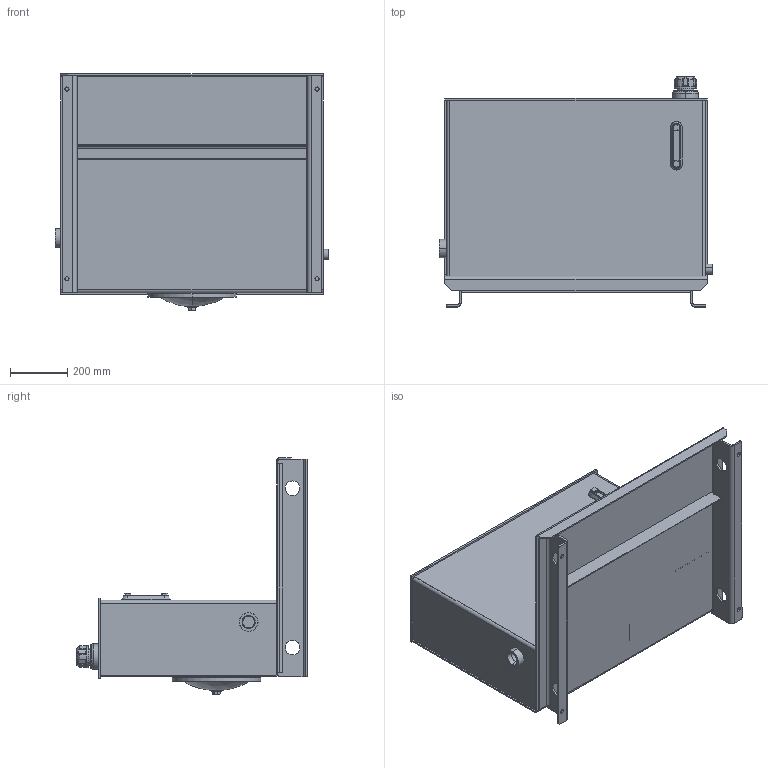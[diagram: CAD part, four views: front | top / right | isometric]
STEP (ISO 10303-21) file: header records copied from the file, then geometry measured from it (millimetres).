
FILE_DESCRIPTION (( 'STEP AP203' ), '1' );
FILE_NAME ('RLC030-FT.STEP', '2015-01-07T16:54:10', ( '' ), ( '' ), 'SwSTEP 2.0', 'SolidWorks 2014', '' );
FILE_SCHEMA (( 'CONFIG_CONTROL_DESIGN' ));
Length unit declared in the file: inch
Products named in the file (1): RLC030-FT
Bounding box: 952.5 x 801.05 x 822.59 mm (x, y, z)
Volume: 14547375.6 mm3; surface area: 6143473.8 mm2
Topology: 20 solids, 20 shells, 703 faces, 1655 edges, 991 vertices
Faces by surface type: cylinder 258, plane 236, cone 86, torus 49, bspline 46, sphere 28
Entity records: 22418 total; most frequent: CARTESIAN_POINT 6012, DIRECTION 3589, ORIENTED_EDGE 3286, EDGE_CURVE 1643, AXIS2_PLACEMENT_3D 1420, VERTEX_POINT 991, EDGE_LOOP 806, CIRCLE 762
